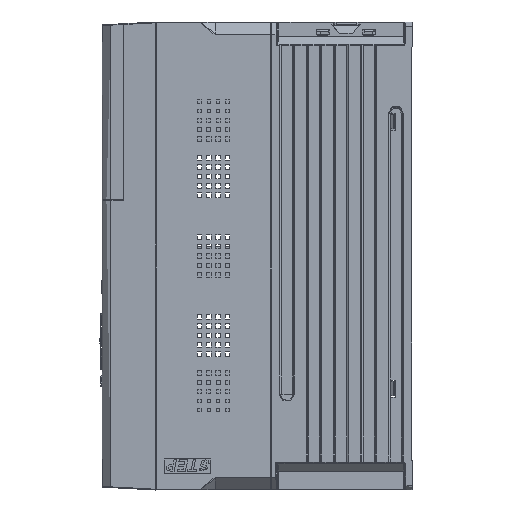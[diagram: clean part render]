
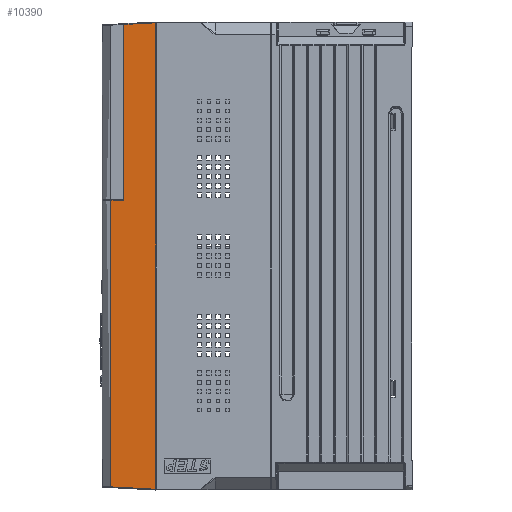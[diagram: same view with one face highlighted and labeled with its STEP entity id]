
A CAD part, left-side view. The second image highlights one B-rep face of the part: STEP entity #10390.
In plain terms, the highlighted planar face has unit normal (-0.999, 0.052, 0).
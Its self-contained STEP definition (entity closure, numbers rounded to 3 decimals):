
#10390=ADVANCED_FACE('',(#52112),#52114,.T.);
#52112=FACE_BOUND('',#52113,.T.);
#52113=EDGE_LOOP('',(#91162,#91163,#91164,#91165,#91166,#91167));
#52114=PLANE('',#52115);
#52115=AXIS2_PLACEMENT_3D('',#52116,#52117,#52118);
#52116=CARTESIAN_POINT('',(-105.444,107.807,0.214));
#52117=DIRECTION('',(-0.999,0.052,0.));
#52118=DIRECTION('',(-0.052,-0.999,0.));
#91162=ORIENTED_EDGE('',*,*,#115081,.T.);
#91163=ORIENTED_EDGE('',*,*,#115074,.F.);
#91164=ORIENTED_EDGE('',*,*,#113933,.T.);
#91165=ORIENTED_EDGE('',*,*,#115033,.F.);
#91166=ORIENTED_EDGE('',*,*,#114794,.T.);
#91167=ORIENTED_EDGE('',*,*,#113938,.T.);
#113933=EDGE_CURVE('',#133284,#133282,#133285,.T.);
#113938=EDGE_CURVE('',#133288,#133292,#133294,.T.);
#114794=EDGE_CURVE('',#134847,#133288,#134848,.T.);
#115033=EDGE_CURVE('',#134847,#133282,#135292,.T.);
#115074=EDGE_CURVE('',#133284,#135366,#135367,.T.);
#115081=EDGE_CURVE('',#133292,#135366,#135379,.T.);
#133282=VERTEX_POINT('',#179666);
#133284=VERTEX_POINT('',#179671);
#133285=LINE('',#179672,#179673);
#133288=VERTEX_POINT('',#179680);
#133292=VERTEX_POINT('',#179689);
#133294=LINE('',#179720,#179721);
#134847=VERTEX_POINT('',#185816);
#134848=LINE('',#185817,#185818);
#135292=LINE('',#186848,#186849);
#135366=VERTEX_POINT('',#187033);
#135367=LINE('',#187034,#187035);
#135379=LINE('',#187061,#187062);
#179666=CARTESIAN_POINT('',(-104.37,128.307,148.64));
#179671=CARTESIAN_POINT('',(-105.444,107.807,149.714));
#179672=CARTESIAN_POINT('',(-105.444,107.807,149.714));
#179673=VECTOR('',#179674,1.);
#179674=DIRECTION('',(0.052,0.997,-0.052));
#179680=CARTESIAN_POINT('',(-103.934,136.621,36.097));
#179689=CARTESIAN_POINT('',(-103.934,136.621,-147.777));
#179720=CARTESIAN_POINT('',(-103.934,136.621,36.097));
#179721=VECTOR('',#179722,1.);
#179722=DIRECTION('',(0.,0.,-1.));
#185816=CARTESIAN_POINT('',(-104.37,128.307,36.097));
#185817=CARTESIAN_POINT('',(-104.37,128.307,36.097));
#185818=VECTOR('',#185819,1.);
#185819=DIRECTION('',(0.052,0.999,0.));
#186848=CARTESIAN_POINT('',(-104.37,128.307,36.097));
#186849=VECTOR('',#186850,1.);
#186850=DIRECTION('',(0.,0.,1.));
#187033=CARTESIAN_POINT('',(-105.444,107.807,-149.287));
#187034=CARTESIAN_POINT('',(-105.444,107.807,149.714));
#187035=VECTOR('',#187036,1.);
#187036=DIRECTION('',(0.,0.,-1.));
#187061=CARTESIAN_POINT('',(-103.934,136.621,-147.777));
#187062=VECTOR('',#187063,1.);
#187063=DIRECTION('',(-0.052,-0.997,-0.052));
